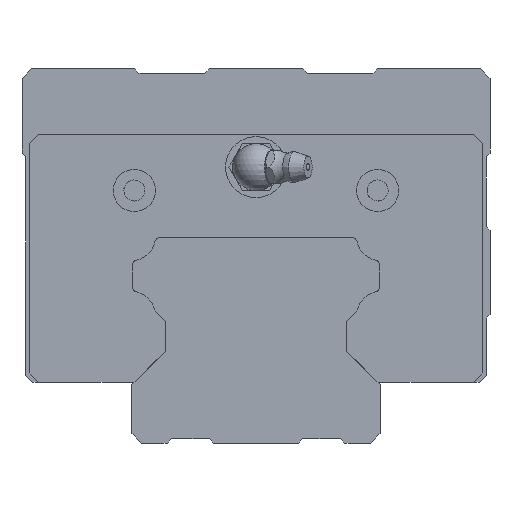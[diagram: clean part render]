
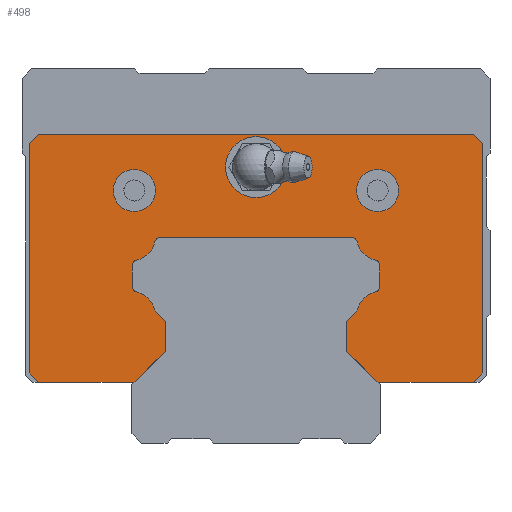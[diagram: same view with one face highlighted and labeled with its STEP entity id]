
A CAD part, front view. The second image highlights one B-rep face of the part: STEP entity #498.
In plain terms, the highlighted planar face has unit normal (0, -1, 0).
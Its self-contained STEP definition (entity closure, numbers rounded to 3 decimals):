
#205=FACE_BOUND('',#984,.T.);
#206=FACE_BOUND('',#986,.T.);
#207=FACE_BOUND('',#987,.T.);
#309=CIRCLE('',#3321,5.15);
#311=CIRCLE('',#3324,1.);
#313=CIRCLE('',#3328,1.);
#315=CIRCLE('',#3331,5.15);
#317=CIRCLE('',#3334,1.);
#319=CIRCLE('',#3338,1.);
#321=CIRCLE('',#3341,5.15);
#323=CIRCLE('',#3344,1.);
#325=CIRCLE('',#3348,1.);
#327=CIRCLE('',#3351,5.15);
#332=CIRCLE('',#3385,6.5);
#333=CIRCLE('',#3386,4.5);
#334=CIRCLE('',#3387,4.5);
#498=ADVANCED_FACE('',(#205,#785,#206,#207),#634,.F.);
#634=PLANE('',#3388);
#785=FACE_OUTER_BOUND('',#985,.T.);
#984=EDGE_LOOP('',(#2268));
#985=EDGE_LOOP('',(#2269,#2270,#2271,#2272,#2273,#2274,#2275,#2276,#2277,
#2278,#2279,#2280,#2281,#2282,#2283,#2284,#2285,#2286,#2287,#2288,#2289,
#2290,#2291,#2292,#2293,#2294,#2295,#2296));
#986=EDGE_LOOP('',(#2297));
#987=EDGE_LOOP('',(#2298));
#1249=LINE('',#5080,#1526);
#1253=LINE('',#5088,#1530);
#1256=LINE('',#5094,#1533);
#1259=LINE('',#5100,#1536);
#1264=LINE('',#5118,#1541);
#1270=LINE('',#5142,#1547);
#1276=LINE('',#5166,#1553);
#1281=LINE('',#5184,#1558);
#1284=LINE('',#5190,#1561);
#1287=LINE('',#5196,#1564);
#1292=LINE('',#5204,#1569);
#1307=LINE('',#5254,#1584);
#1308=LINE('',#5257,#1585);
#1309=LINE('',#5259,#1586);
#1310=LINE('',#5261,#1587);
#1311=LINE('',#5263,#1588);
#1312=LINE('',#5264,#1589);
#1313=LINE('',#5266,#1590);
#1526=VECTOR('',#3954,1.);
#1530=VECTOR('',#3960,1.);
#1533=VECTOR('',#3965,1.);
#1536=VECTOR('',#3970,1.);
#1541=VECTOR('',#3989,1.);
#1547=VECTOR('',#4015,1.);
#1553=VECTOR('',#4041,1.);
#1558=VECTOR('',#4060,1.);
#1561=VECTOR('',#4065,1.);
#1564=VECTOR('',#4070,1.);
#1569=VECTOR('',#4077,1.);
#1584=VECTOR('',#4152,1.);
#1585=VECTOR('',#4153,1.);
#1586=VECTOR('',#4154,1.);
#1587=VECTOR('',#4155,1.);
#1588=VECTOR('',#4156,1.);
#1589=VECTOR('',#4157,1.);
#1590=VECTOR('',#4158,1.);
#2268=ORIENTED_EDGE('',*,*,#3087,.F.);
#2269=ORIENTED_EDGE('',*,*,#3088,.F.);
#2270=ORIENTED_EDGE('',*,*,#3089,.F.);
#2271=ORIENTED_EDGE('',*,*,#3090,.F.);
#2272=ORIENTED_EDGE('',*,*,#3091,.F.);
#2273=ORIENTED_EDGE('',*,*,#3092,.F.);
#2274=ORIENTED_EDGE('',*,*,#3005,.F.);
#2275=ORIENTED_EDGE('',*,*,#3009,.F.);
#2276=ORIENTED_EDGE('',*,*,#3012,.F.);
#2277=ORIENTED_EDGE('',*,*,#3015,.F.);
#2278=ORIENTED_EDGE('',*,*,#3018,.F.);
#2279=ORIENTED_EDGE('',*,*,#3021,.F.);
#2280=ORIENTED_EDGE('',*,*,#3024,.F.);
#2281=ORIENTED_EDGE('',*,*,#3027,.F.);
#2282=ORIENTED_EDGE('',*,*,#3030,.F.);
#2283=ORIENTED_EDGE('',*,*,#3033,.F.);
#2284=ORIENTED_EDGE('',*,*,#3036,.F.);
#2285=ORIENTED_EDGE('',*,*,#3039,.F.);
#2286=ORIENTED_EDGE('',*,*,#3042,.F.);
#2287=ORIENTED_EDGE('',*,*,#3045,.F.);
#2288=ORIENTED_EDGE('',*,*,#3048,.F.);
#2289=ORIENTED_EDGE('',*,*,#3051,.F.);
#2290=ORIENTED_EDGE('',*,*,#3054,.F.);
#2291=ORIENTED_EDGE('',*,*,#3057,.F.);
#2292=ORIENTED_EDGE('',*,*,#3060,.F.);
#2293=ORIENTED_EDGE('',*,*,#3063,.F.);
#2294=ORIENTED_EDGE('',*,*,#3068,.F.);
#2295=ORIENTED_EDGE('',*,*,#3093,.F.);
#2296=ORIENTED_EDGE('',*,*,#3094,.F.);
#2297=ORIENTED_EDGE('',*,*,#3095,.F.);
#2298=ORIENTED_EDGE('',*,*,#3096,.F.);
#2642=VERTEX_POINT('',#5079);
#2643=VERTEX_POINT('',#5081);
#2645=VERTEX_POINT('',#5087);
#2647=VERTEX_POINT('',#5093);
#2649=VERTEX_POINT('',#5099);
#2651=VERTEX_POINT('',#5105);
#2653=VERTEX_POINT('',#5111);
#2655=VERTEX_POINT('',#5117);
#2657=VERTEX_POINT('',#5123);
#2659=VERTEX_POINT('',#5129);
#2661=VERTEX_POINT('',#5135);
#2663=VERTEX_POINT('',#5141);
#2665=VERTEX_POINT('',#5147);
#2667=VERTEX_POINT('',#5153);
#2669=VERTEX_POINT('',#5159);
#2671=VERTEX_POINT('',#5165);
#2673=VERTEX_POINT('',#5171);
#2675=VERTEX_POINT('',#5177);
#2677=VERTEX_POINT('',#5183);
#2679=VERTEX_POINT('',#5189);
#2681=VERTEX_POINT('',#5195);
#2683=VERTEX_POINT('',#5203);
#2688=VERTEX_POINT('',#5253);
#2689=VERTEX_POINT('',#5255);
#2690=VERTEX_POINT('',#5256);
#2691=VERTEX_POINT('',#5258);
#2692=VERTEX_POINT('',#5260);
#2693=VERTEX_POINT('',#5262);
#2694=VERTEX_POINT('',#5265);
#2695=VERTEX_POINT('',#5268);
#2696=VERTEX_POINT('',#5270);
#3005=EDGE_CURVE('',#2642,#2643,#1249,.T.);
#3009=EDGE_CURVE('',#2645,#2642,#1253,.T.);
#3012=EDGE_CURVE('',#2647,#2645,#1256,.T.);
#3015=EDGE_CURVE('',#2649,#2647,#1259,.T.);
#3018=EDGE_CURVE('',#2651,#2649,#309,.T.);
#3021=EDGE_CURVE('',#2653,#2651,#311,.T.);
#3024=EDGE_CURVE('',#2655,#2653,#1264,.T.);
#3027=EDGE_CURVE('',#2657,#2655,#313,.T.);
#3030=EDGE_CURVE('',#2659,#2657,#315,.T.);
#3033=EDGE_CURVE('',#2661,#2659,#317,.T.);
#3036=EDGE_CURVE('',#2663,#2661,#1270,.T.);
#3039=EDGE_CURVE('',#2665,#2663,#319,.T.);
#3042=EDGE_CURVE('',#2667,#2665,#321,.T.);
#3045=EDGE_CURVE('',#2669,#2667,#323,.T.);
#3048=EDGE_CURVE('',#2671,#2669,#1276,.T.);
#3051=EDGE_CURVE('',#2673,#2671,#325,.T.);
#3054=EDGE_CURVE('',#2675,#2673,#327,.T.);
#3057=EDGE_CURVE('',#2677,#2675,#1281,.T.);
#3060=EDGE_CURVE('',#2679,#2677,#1284,.T.);
#3063=EDGE_CURVE('',#2681,#2679,#1287,.T.);
#3068=EDGE_CURVE('',#2683,#2681,#1292,.T.);
#3087=EDGE_CURVE('',#2688,#2688,#332,.T.);
#3088=EDGE_CURVE('',#2689,#2690,#1307,.T.);
#3089=EDGE_CURVE('',#2691,#2689,#1308,.T.);
#3090=EDGE_CURVE('',#2692,#2691,#1309,.T.);
#3091=EDGE_CURVE('',#2693,#2692,#1310,.T.);
#3092=EDGE_CURVE('',#2643,#2693,#1311,.T.);
#3093=EDGE_CURVE('',#2694,#2683,#1312,.T.);
#3094=EDGE_CURVE('',#2690,#2694,#1313,.T.);
#3095=EDGE_CURVE('',#2695,#2695,#333,.T.);
#3096=EDGE_CURVE('',#2696,#2696,#334,.T.);
#3321=AXIS2_PLACEMENT_3D('',#5106,#3976,#3977);
#3324=AXIS2_PLACEMENT_3D('',#5112,#3983,#3984);
#3328=AXIS2_PLACEMENT_3D('',#5124,#3995,#3996);
#3331=AXIS2_PLACEMENT_3D('',#5130,#4002,#4003);
#3334=AXIS2_PLACEMENT_3D('',#5136,#4009,#4010);
#3338=AXIS2_PLACEMENT_3D('',#5148,#4021,#4022);
#3341=AXIS2_PLACEMENT_3D('',#5154,#4028,#4029);
#3344=AXIS2_PLACEMENT_3D('',#5160,#4035,#4036);
#3348=AXIS2_PLACEMENT_3D('',#5172,#4047,#4048);
#3351=AXIS2_PLACEMENT_3D('',#5178,#4054,#4055);
#3385=AXIS2_PLACEMENT_3D('',#5252,#4150,#4151);
#3386=AXIS2_PLACEMENT_3D('',#5267,#4159,#4160);
#3387=AXIS2_PLACEMENT_3D('',#5269,#4161,#4162);
#3388=AXIS2_PLACEMENT_3D('',#5271,#4163,#4164);
#3954=DIRECTION('',(-1.,0.,0.));
#3960=DIRECTION('',(-0.707,0.,-0.707));
#3965=DIRECTION('',(0.,0.,-1.));
#3970=DIRECTION('',(0.707,0.,-0.707));
#3976=DIRECTION('',(0.,1.,0.));
#3977=DIRECTION('',(1.,0.,0.));
#3983=DIRECTION('',(0.,-1.,0.));
#3984=DIRECTION('',(1.,0.,0.));
#3989=DIRECTION('',(0.,0.,-1.));
#3995=DIRECTION('',(0.,-1.,0.));
#3996=DIRECTION('',(1.,0.,0.));
#4002=DIRECTION('',(0.,1.,0.));
#4003=DIRECTION('',(1.,0.,0.));
#4009=DIRECTION('',(0.,-1.,0.));
#4010=DIRECTION('',(1.,0.,0.));
#4015=DIRECTION('',(-1.,0.,0.));
#4021=DIRECTION('',(0.,-1.,0.));
#4022=DIRECTION('',(-1.,0.,0.));
#4028=DIRECTION('',(0.,1.,0.));
#4029=DIRECTION('',(-1.,0.,0.));
#4035=DIRECTION('',(0.,-1.,0.));
#4036=DIRECTION('',(-1.,0.,0.));
#4041=DIRECTION('',(0.,0.,1.));
#4047=DIRECTION('',(0.,-1.,0.));
#4048=DIRECTION('',(-1.,0.,0.));
#4054=DIRECTION('',(0.,1.,0.));
#4055=DIRECTION('',(-1.,0.,0.));
#4060=DIRECTION('',(0.707,0.,0.707));
#4065=DIRECTION('',(0.,0.,1.));
#4070=DIRECTION('',(-0.707,0.,0.707));
#4077=DIRECTION('',(-1.,0.,0.));
#4150=DIRECTION('',(0.,-1.,0.));
#4151=DIRECTION('',(1.,0.,0.));
#4152=DIRECTION('',(0.707,0.,-0.707));
#4153=DIRECTION('',(1.,0.,0.));
#4154=DIRECTION('',(0.707,0.,0.707));
#4155=DIRECTION('',(0.,0.,1.));
#4156=DIRECTION('',(-0.707,0.,0.707));
#4157=DIRECTION('',(-0.707,0.,-0.707));
#4158=DIRECTION('',(0.,0.,-1.));
#4159=DIRECTION('',(0.,-1.,0.));
#4160=DIRECTION('',(1.,0.,0.));
#4161=DIRECTION('',(0.,-1.,0.));
#4162=DIRECTION('',(1.,0.,0.));
#4163=DIRECTION('',(0.,1.,0.));
#4164=DIRECTION('',(0.,0.,1.));
#5079=CARTESIAN_POINT('',(-26.,129.25,13.));
#5080=CARTESIAN_POINT('',(-26.,129.25,13.));
#5081=CARTESIAN_POINT('',(-46.5,129.25,13.));
#5087=CARTESIAN_POINT('',(-19.4,129.25,19.6));
#5088=CARTESIAN_POINT('',(-19.4,129.25,19.6));
#5093=CARTESIAN_POINT('',(-19.4,129.25,26.041));
#5094=CARTESIAN_POINT('',(-19.4,129.25,26.041));
#5099=CARTESIAN_POINT('',(-21.573,129.25,28.214));
#5100=CARTESIAN_POINT('',(-21.573,129.25,28.214));
#5105=CARTESIAN_POINT('',(-25.601,129.25,32.31));
#5106=CARTESIAN_POINT('',(-26.635,129.25,27.265));
#5111=CARTESIAN_POINT('',(-26.4,129.25,33.29));
#5112=CARTESIAN_POINT('',(-25.4,129.25,33.29));
#5117=CARTESIAN_POINT('',(-26.4,129.25,38.11));
#5118=CARTESIAN_POINT('',(-26.4,129.25,38.11));
#5123=CARTESIAN_POINT('',(-25.601,129.25,39.09));
#5124=CARTESIAN_POINT('',(-25.4,129.25,38.11));
#5129=CARTESIAN_POINT('',(-21.59,129.25,43.101));
#5130=CARTESIAN_POINT('',(-26.635,129.25,44.135));
#5135=CARTESIAN_POINT('',(-20.61,129.25,43.9));
#5136=CARTESIAN_POINT('',(-20.61,129.25,42.9));
#5141=CARTESIAN_POINT('',(20.61,129.25,43.9));
#5142=CARTESIAN_POINT('',(20.61,129.25,43.9));
#5147=CARTESIAN_POINT('',(21.59,129.25,43.101));
#5148=CARTESIAN_POINT('',(20.61,129.25,42.9));
#5153=CARTESIAN_POINT('',(25.601,129.25,39.09));
#5154=CARTESIAN_POINT('',(26.635,129.25,44.135));
#5159=CARTESIAN_POINT('',(26.4,129.25,38.11));
#5160=CARTESIAN_POINT('',(25.4,129.25,38.11));
#5165=CARTESIAN_POINT('',(26.4,129.25,33.29));
#5166=CARTESIAN_POINT('',(26.4,129.25,33.29));
#5171=CARTESIAN_POINT('',(25.601,129.25,32.31));
#5172=CARTESIAN_POINT('',(25.4,129.25,33.29));
#5177=CARTESIAN_POINT('',(21.573,129.25,28.214));
#5178=CARTESIAN_POINT('',(26.635,129.25,27.265));
#5183=CARTESIAN_POINT('',(19.4,129.25,26.041));
#5184=CARTESIAN_POINT('',(19.4,129.25,26.041));
#5189=CARTESIAN_POINT('',(19.4,129.25,19.6));
#5190=CARTESIAN_POINT('',(19.4,129.25,19.6));
#5195=CARTESIAN_POINT('',(26.,129.25,13.));
#5196=CARTESIAN_POINT('',(26.,129.25,13.));
#5203=CARTESIAN_POINT('',(46.5,129.25,13.));
#5204=CARTESIAN_POINT('',(46.5,129.25,13.));
#5252=CARTESIAN_POINT('',(0.,129.25,58.997));
#5253=CARTESIAN_POINT('',(6.5,129.25,58.997));
#5254=CARTESIAN_POINT('',(46.5,129.25,66.));
#5255=CARTESIAN_POINT('',(46.5,129.25,66.));
#5256=CARTESIAN_POINT('',(48.5,129.25,64.));
#5257=CARTESIAN_POINT('',(-46.5,129.25,66.));
#5258=CARTESIAN_POINT('',(-46.5,129.25,66.));
#5259=CARTESIAN_POINT('',(-48.5,129.25,64.));
#5260=CARTESIAN_POINT('',(-48.5,129.25,64.));
#5261=CARTESIAN_POINT('',(-48.5,129.25,15.));
#5262=CARTESIAN_POINT('',(-48.5,129.25,15.));
#5263=CARTESIAN_POINT('',(-46.5,129.25,13.));
#5264=CARTESIAN_POINT('',(48.5,129.25,15.));
#5265=CARTESIAN_POINT('',(48.5,129.25,15.));
#5266=CARTESIAN_POINT('',(48.5,129.25,64.));
#5267=CARTESIAN_POINT('',(-26.,129.25,54.));
#5268=CARTESIAN_POINT('',(-21.5,129.25,54.));
#5269=CARTESIAN_POINT('',(26.,129.25,54.));
#5270=CARTESIAN_POINT('',(30.5,129.25,54.));
#5271=CARTESIAN_POINT('',(26.635,129.25,27.265));
